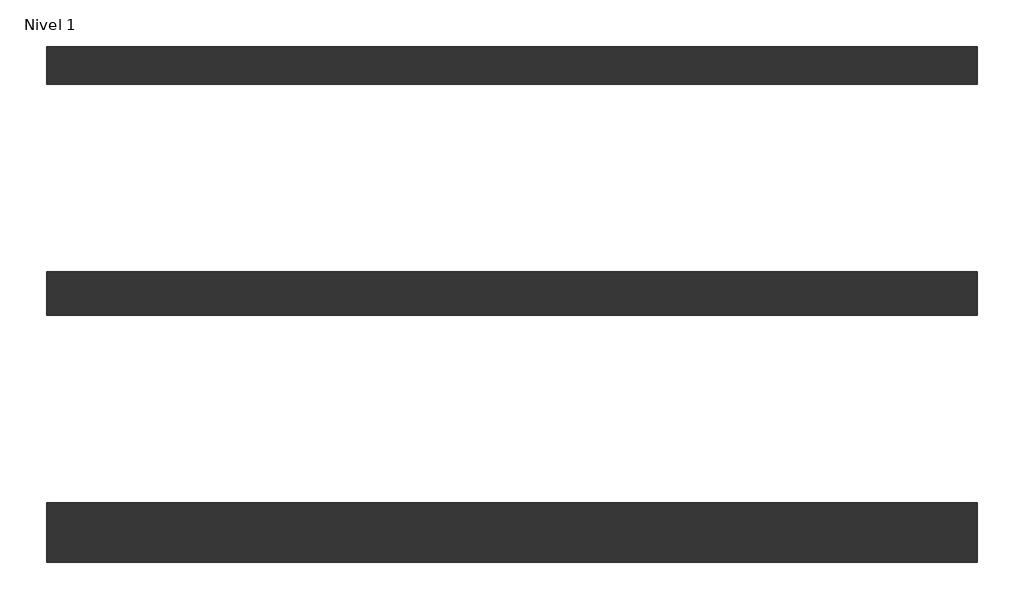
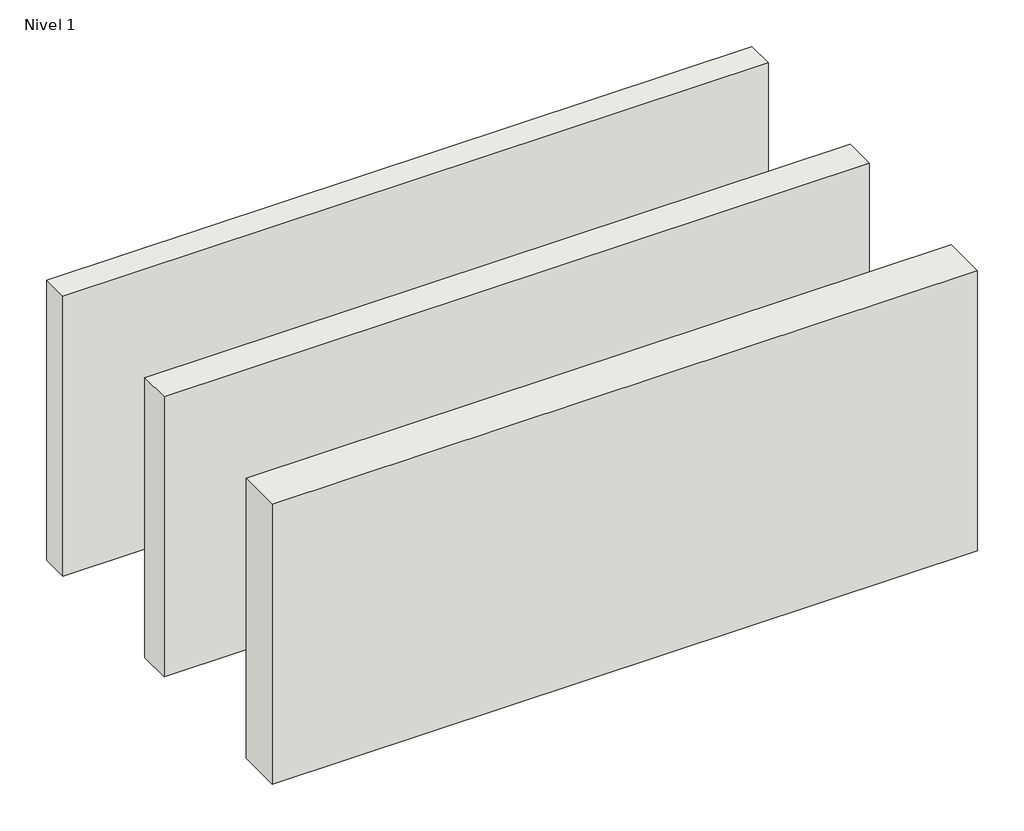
# One storey: 3 walls.
"""IFC4 building model written with IfcOpenShell, lengths in millimetres."""

from ifc_helpers import new_model, si_unit, origin, origin_with_axes, place, context, project, spatial, polyline, outline, extrude, element, save

model = new_model("IFC4")

# Units and contexts
model_context = context("Model", 3, world=origin())
ifc_project = project(units=[si_unit("LENGTHUNIT", "METRE", prefix="MILLI")], contexts=[model_context])

# Site, building, storey
site = spatial("IfcSite", under=ifc_project)
building = spatial("IfcBuilding", under=site)
storey = spatial("IfcBuildingStorey", under=building, Name="Nivel 1", Elevation=0.0)

# Walls
placement = place(None, origin())
element("IfcWall", 1, ObjectType="E07BAT411_CeramicaSampedro_PetoArmadoBloqueRectificado_ECOrec_CITY12_RVT2021_300V01ES", at=placement, inside=storey, context=model_context, shape_type="SweptSolid", body=[
    extrude(outline(polyline([(4452.7694556, 6696.9322098), (1474.6970449, 6696.9322098), (1474.6970449, 6816.9322098), (4452.7694556, 6816.9322098), (4452.7694556, 6696.9322098)])), origin_with_axes(), (0.0, 0.0, 1.0), 1250.0),
])
element("IfcWall", 2, ObjectType="E07BAT421_CeramicaSampedro_PetoArmadoBloqueRectificado_ECOrec_CITY14_RVT2021_300V01ES", at=placement, inside=storey, context=model_context, shape_type="SweptSolid", body=[
    extrude(outline(polyline([(4452.7694556, 5956.9322098), (1474.6970449, 5956.9322098), (1474.6970449, 6096.9322098), (4452.7694556, 6096.9322098), (4452.7694556, 5956.9322098)])), origin_with_axes(), (0.0, 0.0, 1.0), 1250.0),
])
element("IfcWall", 3, ObjectType="E07BAT431_CeramicaSampedro_PetoArmadoBloqueRectificado_ECOrec_CITY19_RVT2021_300V01ES", at=placement, inside=storey, context=model_context, shape_type="SweptSolid", body=[
    extrude(outline(polyline([(4452.7694556, 5166.9322098), (1474.6970449, 5166.9322098), (1474.6970449, 5356.9322098), (4452.7694556, 5356.9322098), (4452.7694556, 5166.9322098)])), origin_with_axes(), (0.0, 0.0, 1.0), 1250.0),
])

save(model, "model.ifc")
